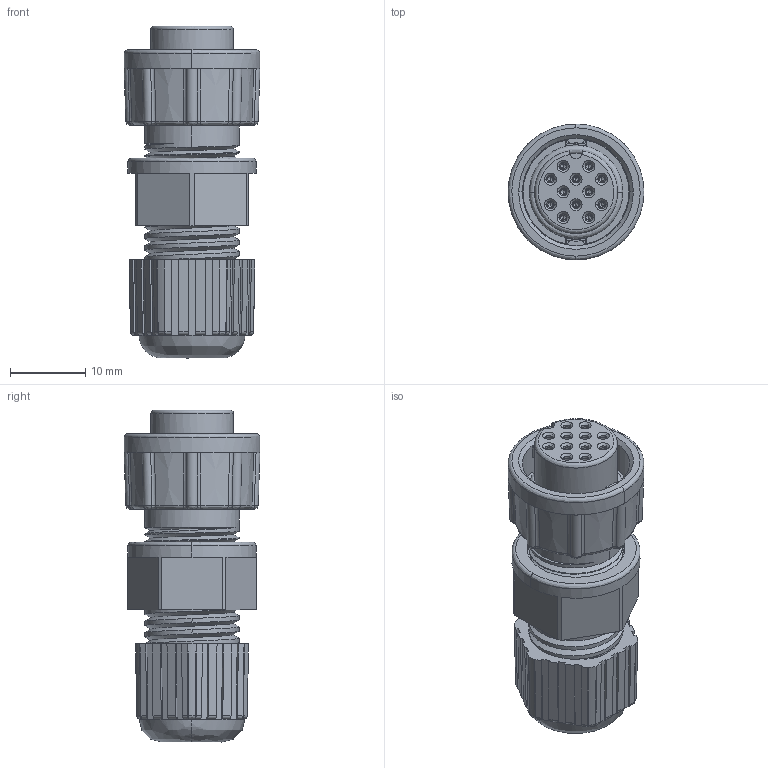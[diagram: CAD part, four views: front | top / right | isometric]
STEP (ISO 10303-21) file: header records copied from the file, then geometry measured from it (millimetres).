
FILE_DESCRIPTION (( 'STEP AP203' ), '1' );
FILE_NAME ('868-012-203KIT.STEP', '2024-06-13T20:38:31', ( '' ), ( '' ), 'SwSTEP 2.0', 'SolidWorks 2020', '' );
FILE_SCHEMA (( 'CONFIG_CONTROL_DESIGN' ));
Products named in the file (1): 868-012-203KIT
Bounding box: 18 x 18 x 44 mm (x, y, z)
Volume: 5709.7 mm3; surface area: 8205.5 mm2
Topology: 1 solids, 1 shells, 916 faces, 2422 edges, 1515 vertices
Faces by surface type: plane 323, cylinder 286, cone 214, bspline 93
Entity records: 47423 total; most frequent: CARTESIAN_POINT 26308, ORIENTED_EDGE 4748, DIRECTION 3970, EDGE_CURVE 2374, AXIS2_PLACEMENT_3D 1588, VERTEX_POINT 1515, EDGE_LOOP 977, ADVANCED_FACE 916
